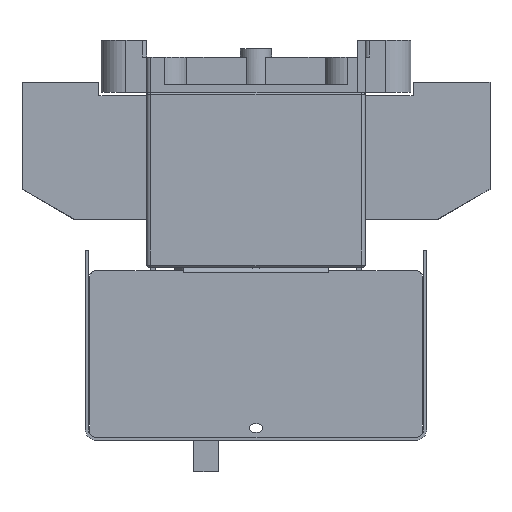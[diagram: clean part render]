
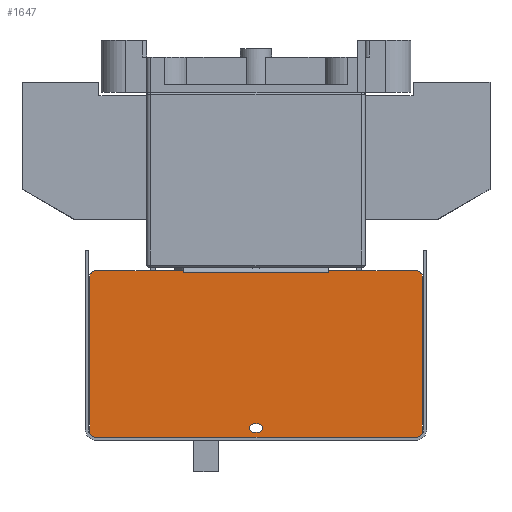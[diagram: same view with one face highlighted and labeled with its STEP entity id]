
A CAD part, left-side view. The second image highlights one B-rep face of the part: STEP entity #1647.
In plain terms, the highlighted planar face has unit normal (-1, 0, 0).
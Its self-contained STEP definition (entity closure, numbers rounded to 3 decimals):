
#170=FACE_BOUND('',#4787,.T.);
#171=FACE_BOUND('',#4788,.T.);
#564=PLANE('',#26794);
#1647=ADVANCED_FACE('',(#170,#171),#564,.T.);
#4787=EDGE_LOOP('',(#13333,#13334,#13335,#13336));
#4788=EDGE_LOOP('',(#13337,#13338,#13339,#13340,#13341,#13342,#13343,#13344,
#13345,#13346,#13347,#13348,#13349,#13350));
#6460=LINE('',#36997,#9344);
#6566=LINE('',#37298,#9450);
#6580=LINE('',#37329,#9464);
#6582=LINE('',#37333,#9466);
#6584=LINE('',#37337,#9468);
#6587=LINE('',#37343,#9471);
#6596=LINE('',#37375,#9480);
#6597=LINE('',#37379,#9481);
#6598=LINE('',#37380,#9482);
#6599=LINE('',#37384,#9483);
#6600=LINE('',#37389,#9484);
#6601=LINE('',#37393,#9485);
#9344=VECTOR('',#29676,1.);
#9450=VECTOR('',#29966,1.);
#9464=VECTOR('',#29996,1.);
#9466=VECTOR('',#30000,1.);
#9468=VECTOR('',#30004,1.);
#9471=VECTOR('',#30009,1.);
#9480=VECTOR('',#30036,1.);
#9481=VECTOR('',#30039,1.);
#9482=VECTOR('',#30040,1.);
#9483=VECTOR('',#30043,1.);
#9484=VECTOR('',#30048,1.);
#9485=VECTOR('',#30051,1.);
#13333=ORIENTED_EDGE('',*,*,#22514,.T.);
#13334=ORIENTED_EDGE('',*,*,#22515,.T.);
#13335=ORIENTED_EDGE('',*,*,#22516,.T.);
#13336=ORIENTED_EDGE('',*,*,#22517,.T.);
#13337=ORIENTED_EDGE('',*,*,#22494,.F.);
#13338=ORIENTED_EDGE('',*,*,#22492,.T.);
#13339=ORIENTED_EDGE('',*,*,#22475,.T.);
#13340=ORIENTED_EDGE('',*,*,#22496,.T.);
#13341=ORIENTED_EDGE('',*,*,#22499,.F.);
#13342=ORIENTED_EDGE('',*,*,#22518,.T.);
#13343=ORIENTED_EDGE('',*,*,#22519,.T.);
#13344=ORIENTED_EDGE('',*,*,#22520,.T.);
#13345=ORIENTED_EDGE('',*,*,#22521,.T.);
#13346=ORIENTED_EDGE('',*,*,#22328,.T.);
#13347=ORIENTED_EDGE('',*,*,#22522,.T.);
#13348=ORIENTED_EDGE('',*,*,#22523,.T.);
#13349=ORIENTED_EDGE('',*,*,#22524,.T.);
#13350=ORIENTED_EDGE('',*,*,#22525,.T.);
#19669=VERTEX_POINT('',#36961);
#19672=VERTEX_POINT('',#36972);
#19774=VERTEX_POINT('',#37297);
#19775=VERTEX_POINT('',#37299);
#19782=VERTEX_POINT('',#37326);
#19785=VERTEX_POINT('',#37334);
#19786=VERTEX_POINT('',#37338);
#19788=VERTEX_POINT('',#37344);
#19800=VERTEX_POINT('',#37373);
#19801=VERTEX_POINT('',#37374);
#19802=VERTEX_POINT('',#37376);
#19803=VERTEX_POINT('',#37378);
#19804=VERTEX_POINT('',#37381);
#19805=VERTEX_POINT('',#37383);
#19806=VERTEX_POINT('',#37385);
#19807=VERTEX_POINT('',#37388);
#19808=VERTEX_POINT('',#37390);
#19809=VERTEX_POINT('',#37392);
#22328=EDGE_CURVE('',#19672,#19669,#6460,.T.);
#22475=EDGE_CURVE('',#19775,#19774,#6566,.T.);
#22492=EDGE_CURVE('',#19782,#19775,#6580,.T.);
#22494=EDGE_CURVE('',#19782,#19785,#6582,.T.);
#22496=EDGE_CURVE('',#19774,#19786,#6584,.T.);
#22499=EDGE_CURVE('',#19788,#19786,#6587,.T.);
#22514=EDGE_CURVE('',#19800,#19801,#25699,.T.);
#22515=EDGE_CURVE('',#19801,#19802,#6596,.T.);
#22516=EDGE_CURVE('',#19802,#19803,#25700,.T.);
#22517=EDGE_CURVE('',#19803,#19800,#6597,.T.);
#22518=EDGE_CURVE('',#19788,#19804,#6598,.T.);
#22519=EDGE_CURVE('',#19804,#19805,#25701,.T.);
#22520=EDGE_CURVE('',#19805,#19806,#6599,.T.);
#22521=EDGE_CURVE('',#19806,#19672,#25702,.T.);
#22522=EDGE_CURVE('',#19669,#19807,#25703,.T.);
#22523=EDGE_CURVE('',#19807,#19808,#6600,.T.);
#22524=EDGE_CURVE('',#19808,#19809,#25704,.T.);
#22525=EDGE_CURVE('',#19809,#19785,#6601,.T.);
#25699=CIRCLE('',#26788,2.1);
#25700=CIRCLE('',#26789,2.1);
#25701=CIRCLE('',#26790,3.);
#25702=CIRCLE('',#26791,3.);
#25703=CIRCLE('',#26792,3.);
#25704=CIRCLE('',#26793,3.);
#26788=AXIS2_PLACEMENT_3D('',#37372,#30034,#30035);
#26789=AXIS2_PLACEMENT_3D('',#37377,#30037,#30038);
#26790=AXIS2_PLACEMENT_3D('',#37382,#30041,#30042);
#26791=AXIS2_PLACEMENT_3D('',#37386,#30044,#30045);
#26792=AXIS2_PLACEMENT_3D('',#37387,#30046,#30047);
#26793=AXIS2_PLACEMENT_3D('',#37391,#30049,#30050);
#26794=AXIS2_PLACEMENT_3D('',#37394,#30052,#30053);
#29676=DIRECTION('',(0.,-1.,0.));
#29966=DIRECTION('',(0.,1.,0.));
#29996=DIRECTION('',(0.,1.,0.));
#30000=DIRECTION('',(0.,0.,1.));
#30004=DIRECTION('',(0.,1.,0.));
#30009=DIRECTION('',(0.,0.,-1.));
#30034=DIRECTION('',(1.,0.,0.));
#30035=DIRECTION('',(0.,1.,0.));
#30036=DIRECTION('',(0.,-1.,0.));
#30037=DIRECTION('',(1.,0.,0.));
#30038=DIRECTION('',(0.,1.,0.));
#30039=DIRECTION('',(0.,1.,0.));
#30040=DIRECTION('',(0.,1.,0.));
#30041=DIRECTION('',(-1.,0.,0.));
#30042=DIRECTION('',(0.,1.,0.));
#30043=DIRECTION('',(0.,0.,-1.));
#30044=DIRECTION('',(-1.,0.,0.));
#30045=DIRECTION('',(0.,1.,0.));
#30046=DIRECTION('',(-1.,0.,0.));
#30047=DIRECTION('',(0.,1.,0.));
#30048=DIRECTION('',(0.,0.,1.));
#30049=DIRECTION('',(-1.,0.,0.));
#30050=DIRECTION('',(0.,1.,0.));
#30051=DIRECTION('',(0.,1.,0.));
#30052=DIRECTION('',(-1.,0.,0.));
#30053=DIRECTION('',(0.,-1.,0.));
#36961=CARTESIAN_POINT('',(-189.3,-77.,-165.8));
#36972=CARTESIAN_POINT('',(-189.3,77.,-165.8));
#36997=CARTESIAN_POINT('',(-189.3,77.,-165.8));
#37297=CARTESIAN_POINT('',(-189.3,35.,-86.8));
#37298=CARTESIAN_POINT('',(-189.3,50.5,-86.8));
#37299=CARTESIAN_POINT('',(-189.3,-35.,-86.8));
#37326=CARTESIAN_POINT('',(-189.3,-35.002,-86.8));
#37329=CARTESIAN_POINT('',(-189.3,77.,-86.8));
#37333=CARTESIAN_POINT('',(-189.3,-35.002,-162.8));
#37334=CARTESIAN_POINT('',(-189.3,-35.002,-85.8));
#37337=CARTESIAN_POINT('',(-189.3,77.,-86.8));
#37338=CARTESIAN_POINT('',(-189.3,35.002,-86.8));
#37343=CARTESIAN_POINT('',(-189.3,35.002,-162.8));
#37344=CARTESIAN_POINT('',(-189.3,35.002,-85.8));
#37372=CARTESIAN_POINT('',(-189.3,1.,-161.4));
#37373=CARTESIAN_POINT('',(-189.3,1.,-163.5));
#37374=CARTESIAN_POINT('',(-189.3,1.,-159.3));
#37375=CARTESIAN_POINT('',(-189.3,1.,-159.3));
#37376=CARTESIAN_POINT('',(-189.3,-1.,-159.3));
#37377=CARTESIAN_POINT('',(-189.3,-1.,-161.4));
#37378=CARTESIAN_POINT('',(-189.3,-1.,-163.5));
#37379=CARTESIAN_POINT('',(-189.3,-1.,-163.5));
#37380=CARTESIAN_POINT('',(-189.3,-77.,-85.8));
#37381=CARTESIAN_POINT('',(-189.3,77.,-85.8));
#37382=CARTESIAN_POINT('',(-189.3,77.,-88.8));
#37383=CARTESIAN_POINT('',(-189.3,80.,-88.8));
#37384=CARTESIAN_POINT('',(-189.3,80.,-88.8));
#37385=CARTESIAN_POINT('',(-189.3,80.,-162.8));
#37386=CARTESIAN_POINT('',(-189.3,77.,-162.8));
#37387=CARTESIAN_POINT('',(-189.3,-77.,-162.8));
#37388=CARTESIAN_POINT('',(-189.3,-80.,-162.8));
#37389=CARTESIAN_POINT('',(-189.3,-80.,-162.8));
#37390=CARTESIAN_POINT('',(-189.3,-80.,-88.8));
#37391=CARTESIAN_POINT('',(-189.3,-77.,-88.8));
#37392=CARTESIAN_POINT('',(-189.3,-77.,-85.8));
#37393=CARTESIAN_POINT('',(-189.3,-77.,-85.8));
#37394=CARTESIAN_POINT('',(-189.3,77.,-162.8));
